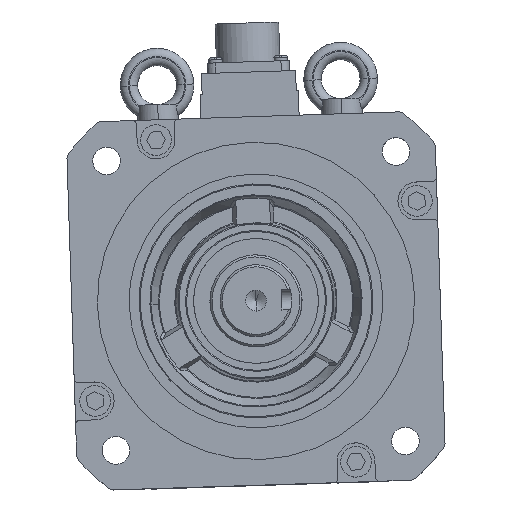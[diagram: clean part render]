
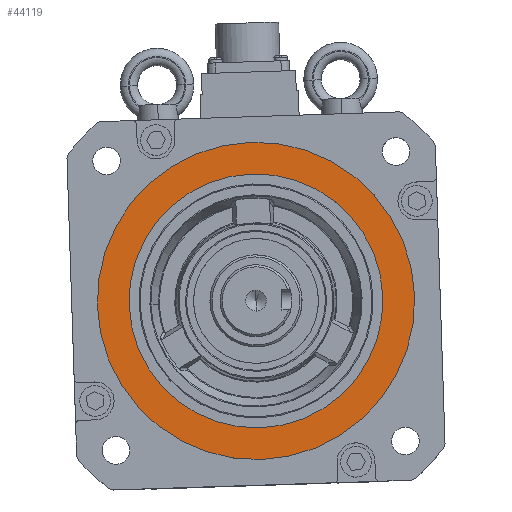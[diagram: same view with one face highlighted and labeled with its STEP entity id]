
A CAD part, top view. The second image highlights one B-rep face of the part: STEP entity #44119.
In plain terms, the highlighted planar face has unit normal (0, 0, 1) as drawn and (0, 0, -1) by its records, which use the part's own axes.
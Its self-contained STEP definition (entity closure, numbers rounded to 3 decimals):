
#966 = PLANE ( 'NONE',  #49529 ) ;
#1250 = ORIENTED_EDGE ( 'NONE', *, *, #35434, .F. ) ;
#2924 = CARTESIAN_POINT ( 'NONE',  ( 0., 0., 3.8 ) ) ;
#3805 = DIRECTION ( 'NONE',  ( 1., 0., 0. ) ) ;
#5721 = EDGE_CURVE ( 'NONE', #11370, #35802, #13640, .T. ) ;
#7386 = CIRCLE ( 'NONE', #21925, 77.5 ) ;
#7723 = CARTESIAN_POINT ( 'NONE',  ( -62., 0., 3.8 ) ) ;
#9481 = DIRECTION ( 'NONE',  ( -1., 0., 0. ) ) ;
#11118 = VERTEX_POINT ( 'NONE', #38491 ) ;
#11370 = VERTEX_POINT ( 'NONE', #21209 ) ;
#11450 = DIRECTION ( 'NONE',  ( 0., 0., 1. ) ) ;
#12564 = AXIS2_PLACEMENT_3D ( 'NONE', #47351, #51215, #22349 ) ;
#13640 = CIRCLE ( 'NONE', #29847, 77.5 ) ;
#14424 = ORIENTED_EDGE ( 'NONE', *, *, #27589, .T. ) ;
#15422 = DIRECTION ( 'NONE',  ( 1., 0., 0. ) ) ;
#17944 = EDGE_LOOP ( 'NONE', ( #14424, #38295 ) ) ;
#18249 = DIRECTION ( 'NONE',  ( 1., 0., 0. ) ) ;
#18425 = CARTESIAN_POINT ( 'NONE',  ( 0., 0., 3.8 ) ) ;
#21209 = CARTESIAN_POINT ( 'NONE',  ( -77.5, 0., 3.8 ) ) ;
#21925 = AXIS2_PLACEMENT_3D ( 'NONE', #2924, #44611, #15422 ) ;
#22349 = DIRECTION ( 'NONE',  ( 1., 0., 0. ) ) ;
#24304 = FACE_BOUND ( 'NONE', #17944, .T. ) ;
#26887 = FACE_OUTER_BOUND ( 'NONE', #35703, .T. ) ;
#27589 = EDGE_CURVE ( 'NONE', #11118, #52370, #37172, .T. ) ;
#28697 = ORIENTED_EDGE ( 'NONE', *, *, #5721, .F. ) ;
#29847 = AXIS2_PLACEMENT_3D ( 'NONE', #32173, #11450, #3805 ) ;
#32173 = CARTESIAN_POINT ( 'NONE',  ( 0., 0., 3.8 ) ) ;
#34244 = DIRECTION ( 'NONE',  ( 0., 0., -1. ) ) ;
#34413 = CARTESIAN_POINT ( 'NONE',  ( 0., 62., 3.8 ) ) ;
#35434 = EDGE_CURVE ( 'NONE', #35802, #11370, #7386, .T. ) ;
#35703 = EDGE_LOOP ( 'NONE', ( #1250, #28697 ) ) ;
#35802 = VERTEX_POINT ( 'NONE', #35978 ) ;
#35978 = CARTESIAN_POINT ( 'NONE',  ( 77.5, 0., 3.8 ) ) ;
#36216 = AXIS2_PLACEMENT_3D ( 'NONE', #18425, #47601, #18249 ) ;
#37172 = CIRCLE ( 'NONE', #12564, 62. ) ;
#38295 = ORIENTED_EDGE ( 'NONE', *, *, #43609, .T. ) ;
#38491 = CARTESIAN_POINT ( 'NONE',  ( 62., 0., 3.8 ) ) ;
#43609 = EDGE_CURVE ( 'NONE', #52370, #11118, #44563, .T. ) ;
#44119 = ADVANCED_FACE ( 'NONE', ( #24304, #26887 ), #966, .T. ) ;
#44563 = CIRCLE ( 'NONE', #36216, 62. ) ;
#44611 = DIRECTION ( 'NONE',  ( 0., 0., 1. ) ) ;
#47351 = CARTESIAN_POINT ( 'NONE',  ( 0., 0., 3.8 ) ) ;
#47601 = DIRECTION ( 'NONE',  ( 0., 0., 1. ) ) ;
#49529 = AXIS2_PLACEMENT_3D ( 'NONE', #34413, #34244, #9481 ) ;
#51215 = DIRECTION ( 'NONE',  ( 0., 0., 1. ) ) ;
#52370 = VERTEX_POINT ( 'NONE', #7723 ) ;
